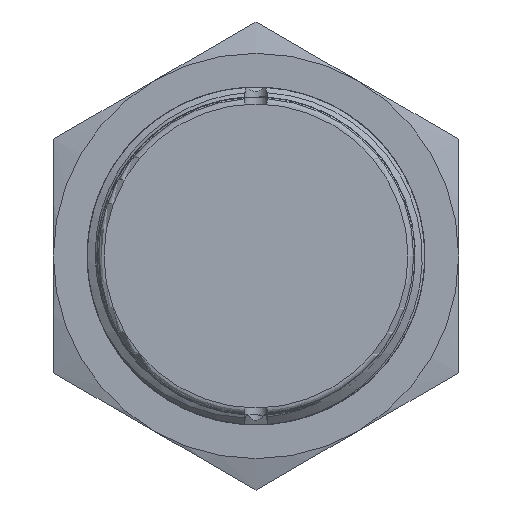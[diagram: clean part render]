
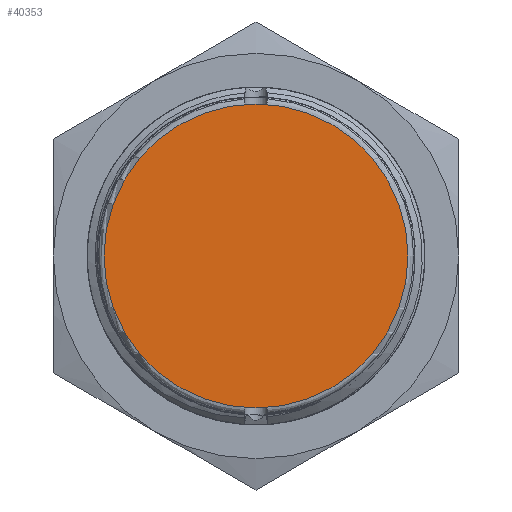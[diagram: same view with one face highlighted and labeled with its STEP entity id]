
A CAD part, left-side view. The second image highlights one B-rep face of the part: STEP entity #40353.
In plain terms, the highlighted planar face has unit normal (-1, 0, 0).
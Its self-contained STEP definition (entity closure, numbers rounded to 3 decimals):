
#18222=CARTESIAN_POINT('',(0.,0.,0.));
#18223=DIRECTION('',(-1.,0.,0.));
#18224=DIRECTION('',(0.,0.,-1.));
#18225=AXIS2_PLACEMENT_3D('',#18222,#18223,#18224);
#18235=CARTESIAN_POINT('',(0.,0.,13.5));
#18312=CARTESIAN_POINT('',(0.,0.,0.));
#18313=DIRECTION('',(-1.,0.,0.));
#18314=DIRECTION('',(0.,0.,1.));
#18315=AXIS2_PLACEMENT_3D('',#18312,#18313,#18314);
#18325=CARTESIAN_POINT('',(0.,0.,-13.5));
#21869=VERTEX_POINT('',#18235);
#21890=VERTEX_POINT('',#18325);
#40344=CARTESIAN_POINT('',(0.,0.,0.));
#40345=DIRECTION('',(-1.,0.,0.));
#40346=DIRECTION('',(0.,1.,0.));
#40347=AXIS2_PLACEMENT_3D('',#40344,#40345,#40346);
#40348=PLANE('',#40347);
#40349=ORIENTED_EDGE('',*,*,#40325,.F.);
#40350=ORIENTED_EDGE('',*,*,#40281,.F.);
#40351=EDGE_LOOP('',(#40349,#40350));
#40352=FACE_OUTER_BOUND('',#40351,.F.);
#18226=CIRCLE('',#18225,13.5);
#18316=CIRCLE('',#18315,13.5);
#40281=EDGE_CURVE('',#21890,#21869,#18226,.T.);
#40325=EDGE_CURVE('',#21869,#21890,#18316,.T.);
#40353=ADVANCED_FACE('',(#40352),#40348,.T.);
